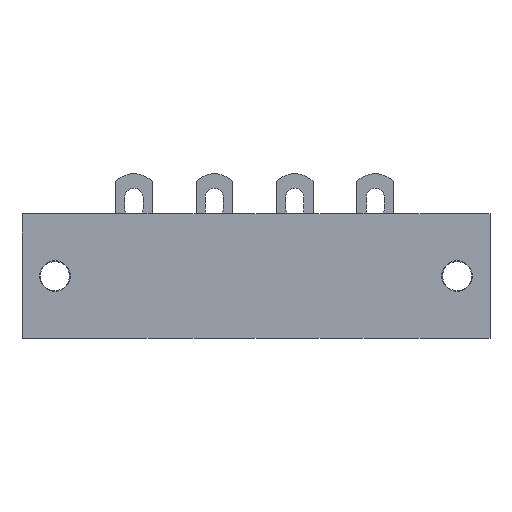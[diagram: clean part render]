
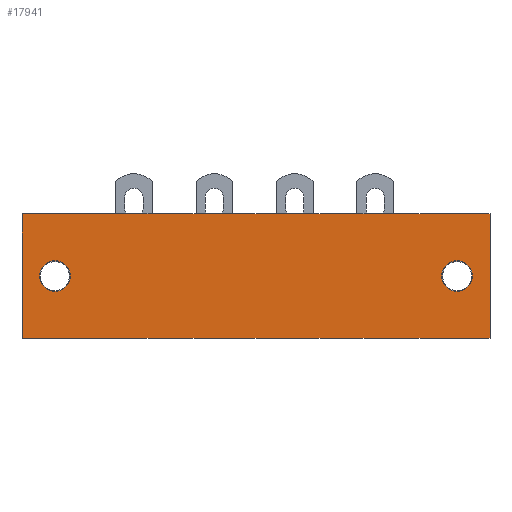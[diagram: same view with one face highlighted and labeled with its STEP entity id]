
A CAD part, front view. The second image highlights one B-rep face of the part: STEP entity #17941.
In plain terms, the highlighted planar face has unit normal (0, -1, 0).
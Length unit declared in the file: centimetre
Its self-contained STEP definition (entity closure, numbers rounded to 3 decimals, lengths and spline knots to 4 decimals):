
#623=CIRCLE('',#28675,0.21);
#668=CIRCLE('',#28911,0.21);
#1351=VERTEX_POINT('',#23959);
#1352=VERTEX_POINT('',#23960);
#1363=VERTEX_POINT('',#23984);
#1825=VERTEX_POINT('',#25851);
#1826=VERTEX_POINT('',#25852);
#1837=VERTEX_POINT('',#25876);
#3178=VECTOR('',#19333,1.);
#3696=VECTOR('',#20157,1.);
#4658=VECTOR('',#22149,1.);
#4659=VECTOR('',#22150,1.);
#5183=LINE('',#23958,#3178);
#5701=LINE('',#25850,#3696);
#6663=LINE('',#28452,#4658);
#6664=LINE('',#28453,#4659);
#7347=EDGE_CURVE('',#1351,#1352,#5183,.T.);
#7359=EDGE_CURVE('',#1363,#1363,#623,.T.);
#8029=EDGE_CURVE('',#1825,#1826,#5701,.T.);
#8041=EDGE_CURVE('',#1837,#1837,#668,.T.);
#9357=EDGE_CURVE('',#1826,#1351,#6663,.T.);
#9358=EDGE_CURVE('',#1352,#1825,#6664,.T.);
#14651=ORIENTED_EDGE('',*,*,#7359,.T.);
#14652=ORIENTED_EDGE('',*,*,#8041,.T.);
#14653=ORIENTED_EDGE('',*,*,#9357,.T.);
#14654=ORIENTED_EDGE('',*,*,#7347,.T.);
#14655=ORIENTED_EDGE('',*,*,#9358,.T.);
#14656=ORIENTED_EDGE('',*,*,#8029,.T.);
#15847=EDGE_LOOP('',(#14651));
#15848=EDGE_LOOP('',(#14652));
#15849=EDGE_LOOP('',(#14653,#14654,#14655,#14656));
#16951=FACE_BOUND('',#15847,.T.);
#16952=FACE_BOUND('',#15848,.T.);
#16953=FACE_BOUND('',#15849,.T.);
#17941=ADVANCED_FACE('',(#16951,#16952,#16953),#18593,.T.);
#18593=PLANE('',#29581);
#19333=DIRECTION('',(0.,0.,1.));
#19351=DIRECTION('',(0.,1.,0.));
#19352=DIRECTION('',(0.21,0.,0.));
#20157=DIRECTION('',(0.,0.,-1.));
#20175=DIRECTION('',(0.,1.,0.));
#20176=DIRECTION('',(-0.21,0.,0.));
#22148=DIRECTION('',(0.,-1.,0.));
#22149=DIRECTION('',(1.,0.,0.));
#22150=DIRECTION('',(-1.,0.,0.));
#23958=CARTESIAN_POINT('',(4.4,0.,0.85));
#23959=CARTESIAN_POINT('',(4.4,0.,-0.85));
#23960=CARTESIAN_POINT('',(4.4,0.,0.85));
#23983=CARTESIAN_POINT('',(3.95,0.,0.));
#23984=CARTESIAN_POINT('',(3.74,0.,0.));
#25850=CARTESIAN_POINT('',(-2.,0.,-0.85));
#25851=CARTESIAN_POINT('',(-2.,0.,0.85));
#25852=CARTESIAN_POINT('',(-2.,0.,-0.85));
#25875=CARTESIAN_POINT('',(-1.55,0.,0.));
#25876=CARTESIAN_POINT('',(-1.34,0.,0.));
#28451=CARTESIAN_POINT('',(0.,0.,0.));
#28452=CARTESIAN_POINT('',(0.,0.,-0.85));
#28453=CARTESIAN_POINT('',(-1.1,0.,0.85));
#28675=AXIS2_PLACEMENT_3D('',#23983,#19351,#19352);
#28911=AXIS2_PLACEMENT_3D('',#25875,#20175,#20176);
#29581=AXIS2_PLACEMENT_3D('',#28451,#22148,$);
